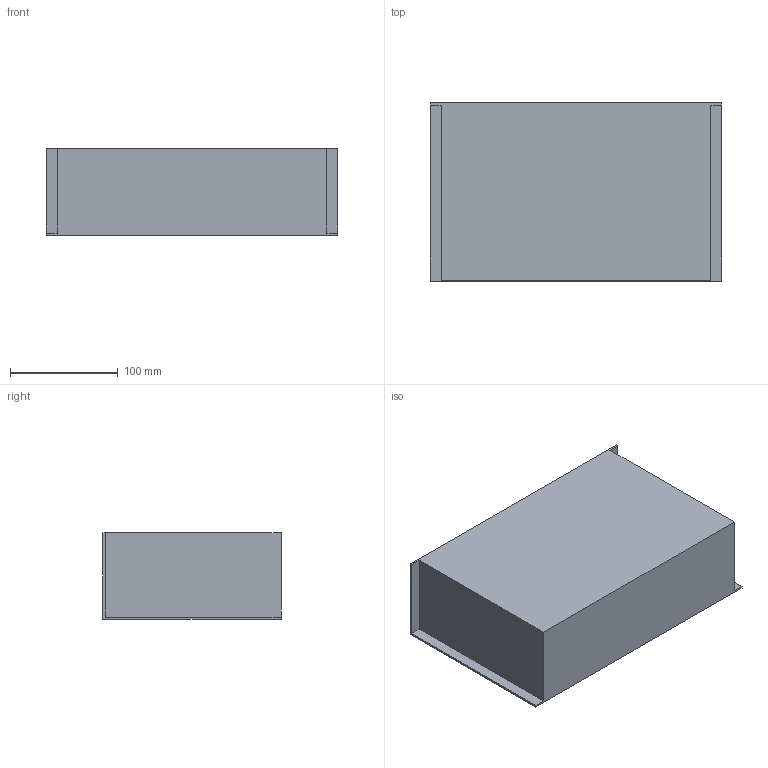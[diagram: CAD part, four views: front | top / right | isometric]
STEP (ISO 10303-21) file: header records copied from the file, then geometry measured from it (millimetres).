
FILE_DESCRIPTION(/* description */ (''),/* implementation_level */ '2;1');
FILE_NAME(/* name */ '10.optics-laser#10.5#100WPowerSupply',/* time_stamp */ '2014-12-01T20:19:28+01:00',/* author */ (''),/* organization */ (''),/* preprocessor_version */ 'ST-DEVELOPER v14',/* originating_system */ '',/* authorisation */ '');
FILE_SCHEMA (('AUTOMOTIVE_DESIGN'));
Length unit declared in the file: millimetre
Products named in the file (1): Document
Bounding box: 270 x 165 x 80 mm (x, y, z)
Volume: 3309720 mm3; surface area: 158700 mm2
Topology: 1 solids, 1 shells, 12 faces, 30 edges, 20 vertices
Faces by surface type: plane 12
Entity records: 674 total; most frequent: CARTESIAN_POINT 218, B_SPLINE_CURVE_WITH_KNOTS 90, ORIENTED_EDGE 60, PCURVE 60, DEFINITIONAL_REPRESENTATION 60, SURFACE_CURVE 30, EDGE_CURVE 30, VERTEX_POINT 20
